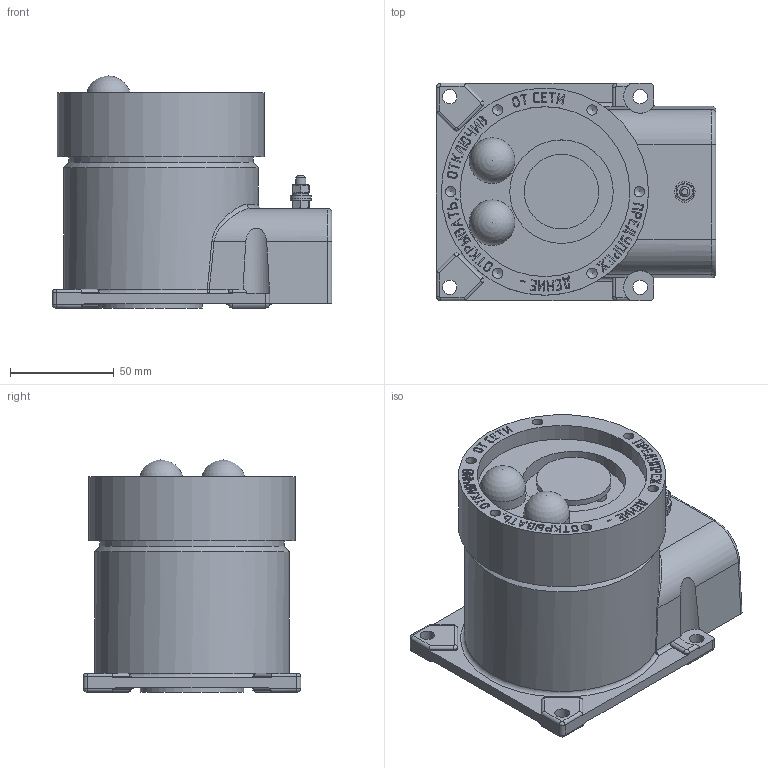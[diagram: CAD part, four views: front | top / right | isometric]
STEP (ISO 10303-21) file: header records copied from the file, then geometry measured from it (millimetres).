
FILE_DESCRIPTION(/* description */ (''),/* implementation_level */ '2;1');
FILE_NAME(/* name */ '\FS1\public\8A3EB671-9B96-4287-9F8C-C6E2AF1E6090\Документы отдела\!Новый даташит\ТермометрияМорские\КД\3D Модели\МОДЕЛИ ПОЖАРКИ ДЛЯ САЙТА\Модели для сайта\ExОПЗС алюминиевый М27.stp',/* time_stamp */ '2018-01-31T15:09:25+03:00',/* author */ ('hudyakovak'),/* organization */ (''),/* preprocessor_version */ 'ST-DEVELOPER v16.1',/* originating_system */ 'Autodesk Inventor 2016',/* authorisation */ '');
FILE_SCHEMA (('AUTOMOTIVE_DESIGN { 1 0 10303 214 3 1 1 }'));
Length unit declared in the file: millimetre
Products named in the file (1): ExОПЗС \X2\0430043B044E043C0438043D
043804350432044B0439\X0\
Bounding box: 135 x 105 x 112 mm (x, y, z)
Volume: 812565.2 mm3; surface area: 81226.6 mm2
Topology: 2 solids, 2 shells, 876 faces, 2333 edges, 1527 vertices
Faces by surface type: plane 388, bspline 345, cylinder 105, cone 14, sphere 13, torus 11
Full cylindrical faces by diameter (mm): 5 x7, 6 x3, 7 x4, 7.5 x1, 10 x2, 22 x2, 27 x2, 36 x1, 50 x2, 82 x1, 89 x1, 94 x1, 100 x1
Entity records: 28541 total; most frequent: CARTESIAN_POINT 9171, ORIENTED_EDGE 4542, DIRECTION 2882, EDGE_CURVE 2271, VERTEX_POINT 1510, LINE 1322, VECTOR 1322, EDGE_LOOP 999
